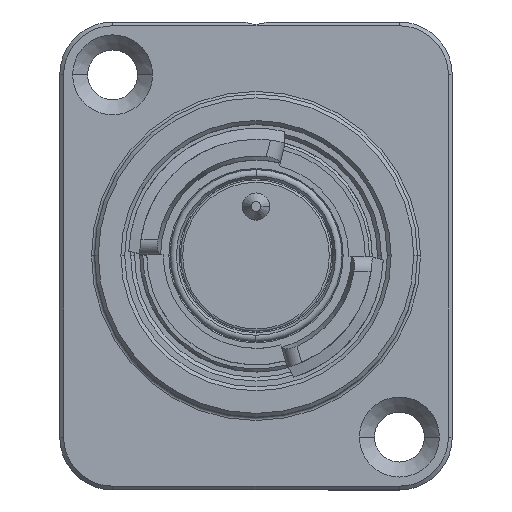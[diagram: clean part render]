
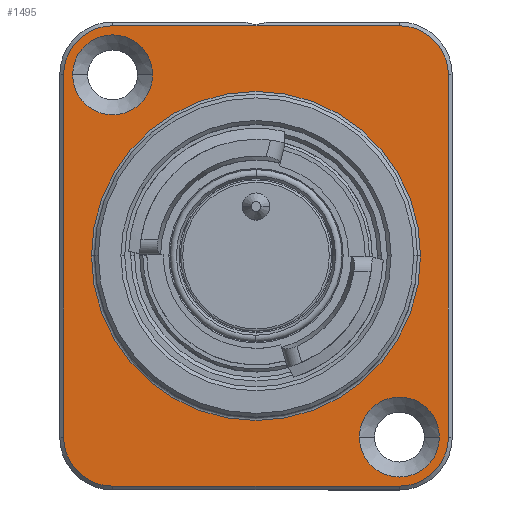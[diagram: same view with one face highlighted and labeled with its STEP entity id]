
A CAD part, top view. The second image highlights one B-rep face of the part: STEP entity #1495.
In plain terms, the highlighted planar face has unit normal (0, 0, 1).
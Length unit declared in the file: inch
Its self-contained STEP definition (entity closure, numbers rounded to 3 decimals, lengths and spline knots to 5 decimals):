
#7 = LINE ( 'NONE', #4739, #11 ) ;
#11 = VECTOR ( 'NONE', #7357, 39.37008 ) ;
#23 = CARTESIAN_POINT ( 'NONE',  ( 0.50197, -0.47244, -0.66535 ) ) ;
#116 = FACE_BOUND ( 'NONE', #6651, .T. ) ;
#205 = FACE_OUTER_BOUND ( 'NONE', #5841, .T. ) ;
#207 = ORIENTED_EDGE ( 'NONE', *, *, #2551, .T. ) ;
#385 = CARTESIAN_POINT ( 'NONE',  ( 0.37402, -0.47244, -0.66535 ) ) ;
#480 = DIRECTION ( 'NONE',  ( -1., 0., 0. ) ) ;
#559 = EDGE_CURVE ( 'NONE', #8540, #7910, #8358, .T. ) ;
#695 = CIRCLE ( 'NONE', #3121, 0.12795 ) ;
#845 = AXIS2_PLACEMENT_3D ( 'NONE', #385, #7065, #8588 ) ;
#867 = CIRCLE ( 'NONE', #7704, 0.42913 ) ;
#912 = CARTESIAN_POINT ( 'NONE',  ( 0.37402, -0.47244, -0.66535 ) ) ;
#1049 = EDGE_CURVE ( 'NONE', #2221, #6112, #1387, .T. ) ;
#1240 = CARTESIAN_POINT ( 'NONE',  ( -0.37402, 0.60039, -0.66535 ) ) ;
#1301 = VERTEX_POINT ( 'NONE', #23 ) ;
#1343 = LINE ( 'NONE', #4057, #2710 ) ;
#1387 = CIRCLE ( 'NONE', #2107, 0.10433 ) ;
#1495 = ADVANCED_FACE ( 'NONE', ( #205, #2887, #5630, #116 ), #2929, .F. ) ;
#1556 = CARTESIAN_POINT ( 'NONE',  ( -0.37402, -0.60039, -0.66535 ) ) ;
#1575 = VECTOR ( 'NONE', #7087, 39.37008 ) ;
#1661 = DIRECTION ( 'NONE',  ( -1., 0., 0. ) ) ;
#1773 = CARTESIAN_POINT ( 'NONE',  ( -0.37402, 0.47244, -0.66535 ) ) ;
#1846 = ORIENTED_EDGE ( 'NONE', *, *, #8694, .T. ) ;
#1881 = ORIENTED_EDGE ( 'NONE', *, *, #6774, .T. ) ;
#1931 = CARTESIAN_POINT ( 'NONE',  ( 0.37402, -0.60039, -0.66535 ) ) ;
#2093 = CARTESIAN_POINT ( 'NONE',  ( -0.26969, 0.47244, -0.66535 ) ) ;
#2107 = AXIS2_PLACEMENT_3D ( 'NONE', #6249, #7622, #2896 ) ;
#2125 = VERTEX_POINT ( 'NONE', #6353 ) ;
#2196 = CIRCLE ( 'NONE', #2629, 0.12795 ) ;
#2221 = VERTEX_POINT ( 'NONE', #4595 ) ;
#2330 = CARTESIAN_POINT ( 'NONE',  ( 0.42913, 0., -0.66535 ) ) ;
#2341 = ORIENTED_EDGE ( 'NONE', *, *, #2600, .T. ) ;
#2392 = DIRECTION ( 'NONE',  ( -1., 0., 0. ) ) ;
#2487 = CARTESIAN_POINT ( 'NONE',  ( 0.37402, 0.47244, -0.66535 ) ) ;
#2499 = DIRECTION ( 'NONE',  ( 0., 0., -1. ) ) ;
#2509 = CARTESIAN_POINT ( 'NONE',  ( 0.26969, -0.47244, -0.66535 ) ) ;
#2551 = EDGE_CURVE ( 'NONE', #4105, #3468, #4071, .T. ) ;
#2600 = EDGE_CURVE ( 'NONE', #4254, #4105, #695, .T. ) ;
#2629 = AXIS2_PLACEMENT_3D ( 'NONE', #2487, #7106, #3855 ) ;
#2681 = ORIENTED_EDGE ( 'NONE', *, *, #4327, .T. ) ;
#2710 = VECTOR ( 'NONE', #6770, 39.37008 ) ;
#2887 = FACE_BOUND ( 'NONE', #3400, .T. ) ;
#2896 = DIRECTION ( 'NONE',  ( -1., 0., 0. ) ) ;
#2929 = PLANE ( 'NONE',  #5374 ) ;
#3060 = DIRECTION ( 'NONE',  ( 0., 0., 1. ) ) ;
#3074 = ORIENTED_EDGE ( 'NONE', *, *, #3366, .T. ) ;
#3076 = EDGE_CURVE ( 'NONE', #7910, #8540, #3966, .T. ) ;
#3118 = VECTOR ( 'NONE', #3321, 39.37008 ) ;
#3121 = AXIS2_PLACEMENT_3D ( 'NONE', #3883, #7315, #2392 ) ;
#3122 = DIRECTION ( 'NONE',  ( -1., 0., 0. ) ) ;
#3160 = DIRECTION ( 'NONE',  ( 0., 0., -1. ) ) ;
#3205 = DIRECTION ( 'NONE',  ( -1., 0., 0. ) ) ;
#3245 = CARTESIAN_POINT ( 'NONE',  ( 0.47835, -0.47244, -0.66535 ) ) ;
#3272 = AXIS2_PLACEMENT_3D ( 'NONE', #3781, #3160, #3205 ) ;
#3301 = EDGE_CURVE ( 'NONE', #5894, #2125, #3567, .T. ) ;
#3321 = DIRECTION ( 'NONE',  ( 1., 0., 0. ) ) ;
#3366 = EDGE_CURVE ( 'NONE', #8625, #7305, #867, .T. ) ;
#3400 = EDGE_LOOP ( 'NONE', ( #2681, #3074 ) ) ;
#3468 = VERTEX_POINT ( 'NONE', #7932 ) ;
#3502 = DIRECTION ( 'NONE',  ( 0., 0., -1. ) ) ;
#3567 = CIRCLE ( 'NONE', #5135, 0.12795 ) ;
#3588 = DIRECTION ( 'NONE',  ( -1., 0., 0. ) ) ;
#3597 = CIRCLE ( 'NONE', #4894, 0.12795 ) ;
#3604 = CARTESIAN_POINT ( 'NONE',  ( 0.37402, 0.60039, -0.66535 ) ) ;
#3632 = EDGE_CURVE ( 'NONE', #4989, #5894, #7, .T. ) ;
#3693 = CIRCLE ( 'NONE', #3272, 0.42913 ) ;
#3781 = CARTESIAN_POINT ( 'NONE',  ( 0., 0., -0.66535 ) ) ;
#3855 = DIRECTION ( 'NONE',  ( -1., 0., 0. ) ) ;
#3883 = CARTESIAN_POINT ( 'NONE',  ( -0.37402, -0.47244, -0.66535 ) ) ;
#3966 = CIRCLE ( 'NONE', #845, 0.10433 ) ;
#3994 = EDGE_CURVE ( 'NONE', #1301, #4877, #1343, .T. ) ;
#4057 = CARTESIAN_POINT ( 'NONE',  ( 0.50197, 0.47244, -0.66535 ) ) ;
#4071 = LINE ( 'NONE', #1931, #3118 ) ;
#4105 = VERTEX_POINT ( 'NONE', #1556 ) ;
#4239 = DIRECTION ( 'NONE',  ( -1., 0., 0. ) ) ;
#4254 = VERTEX_POINT ( 'NONE', #4502 ) ;
#4283 = EDGE_CURVE ( 'NONE', #6112, #2221, #8114, .T. ) ;
#4327 = EDGE_CURVE ( 'NONE', #7305, #8625, #3693, .T. ) ;
#4502 = CARTESIAN_POINT ( 'NONE',  ( -0.50197, -0.47244, -0.66535 ) ) ;
#4595 = CARTESIAN_POINT ( 'NONE',  ( -0.47835, 0.47244, -0.66535 ) ) ;
#4739 = CARTESIAN_POINT ( 'NONE',  ( 0.02706, 0.60039, -0.66535 ) ) ;
#4791 = EDGE_LOOP ( 'NONE', ( #5569, #7435 ) ) ;
#4828 = DIRECTION ( 'NONE',  ( 0., 0., -1. ) ) ;
#4877 = VERTEX_POINT ( 'NONE', #6261 ) ;
#4894 = AXIS2_PLACEMENT_3D ( 'NONE', #912, #3060, #1661 ) ;
#4947 = ORIENTED_EDGE ( 'NONE', *, *, #1049, .T. ) ;
#4989 = VERTEX_POINT ( 'NONE', #3604 ) ;
#5050 = ORIENTED_EDGE ( 'NONE', *, *, #4283, .T. ) ;
#5053 = CARTESIAN_POINT ( 'NONE',  ( -0.42913, 0., -0.66535 ) ) ;
#5135 = AXIS2_PLACEMENT_3D ( 'NONE', #7648, #6875, #7560 ) ;
#5374 = AXIS2_PLACEMENT_3D ( 'NONE', #8355, #3502, #3588 ) ;
#5389 = ORIENTED_EDGE ( 'NONE', *, *, #3301, .T. ) ;
#5444 = CARTESIAN_POINT ( 'NONE',  ( 0.37402, -0.47244, -0.66535 ) ) ;
#5569 = ORIENTED_EDGE ( 'NONE', *, *, #3076, .T. ) ;
#5630 = FACE_BOUND ( 'NONE', #4791, .T. ) ;
#5823 = DIRECTION ( 'NONE',  ( 0., 0., -1. ) ) ;
#5841 = EDGE_LOOP ( 'NONE', ( #7360, #5389, #1881, #2341, #207, #6649, #8196, #1846 ) ) ;
#5894 = VERTEX_POINT ( 'NONE', #1240 ) ;
#6112 = VERTEX_POINT ( 'NONE', #2093 ) ;
#6249 = CARTESIAN_POINT ( 'NONE',  ( -0.37402, 0.47244, -0.66535 ) ) ;
#6261 = CARTESIAN_POINT ( 'NONE',  ( 0.50197, 0.47244, -0.66535 ) ) ;
#6353 = CARTESIAN_POINT ( 'NONE',  ( -0.50197, 0.47244, -0.66535 ) ) ;
#6649 = ORIENTED_EDGE ( 'NONE', *, *, #7660, .T. ) ;
#6651 = EDGE_LOOP ( 'NONE', ( #5050, #4947 ) ) ;
#6770 = DIRECTION ( 'NONE',  ( 0., 1., 0. ) ) ;
#6774 = EDGE_CURVE ( 'NONE', #2125, #4254, #8484, .T. ) ;
#6875 = DIRECTION ( 'NONE',  ( 0., 0., 1. ) ) ;
#7065 = DIRECTION ( 'NONE',  ( 0., 0., -1. ) ) ;
#7087 = DIRECTION ( 'NONE',  ( 0., -1., 0. ) ) ;
#7104 = AXIS2_PLACEMENT_3D ( 'NONE', #1773, #5823, #3122 ) ;
#7106 = DIRECTION ( 'NONE',  ( 0., 0., 1. ) ) ;
#7133 = CARTESIAN_POINT ( 'NONE',  ( -0.50197, -0.47244, -0.66535 ) ) ;
#7298 = CARTESIAN_POINT ( 'NONE',  ( 0., 0., -0.66535 ) ) ;
#7305 = VERTEX_POINT ( 'NONE', #5053 ) ;
#7315 = DIRECTION ( 'NONE',  ( 0., 0., 1. ) ) ;
#7357 = DIRECTION ( 'NONE',  ( -1., 0., 0. ) ) ;
#7360 = ORIENTED_EDGE ( 'NONE', *, *, #3632, .T. ) ;
#7435 = ORIENTED_EDGE ( 'NONE', *, *, #559, .T. ) ;
#7560 = DIRECTION ( 'NONE',  ( -1., 0., 0. ) ) ;
#7622 = DIRECTION ( 'NONE',  ( 0., 0., -1. ) ) ;
#7648 = CARTESIAN_POINT ( 'NONE',  ( -0.37402, 0.47244, -0.66535 ) ) ;
#7660 = EDGE_CURVE ( 'NONE', #3468, #1301, #3597, .T. ) ;
#7704 = AXIS2_PLACEMENT_3D ( 'NONE', #7298, #2499, #480 ) ;
#7910 = VERTEX_POINT ( 'NONE', #3245 ) ;
#7932 = CARTESIAN_POINT ( 'NONE',  ( 0.37402, -0.60039, -0.66535 ) ) ;
#8114 = CIRCLE ( 'NONE', #7104, 0.10433 ) ;
#8196 = ORIENTED_EDGE ( 'NONE', *, *, #3994, .T. ) ;
#8355 = CARTESIAN_POINT ( 'NONE',  ( 0., 0.825, -0.66535 ) ) ;
#8358 = CIRCLE ( 'NONE', #8501, 0.10433 ) ;
#8484 = LINE ( 'NONE', #7133, #1575 ) ;
#8501 = AXIS2_PLACEMENT_3D ( 'NONE', #5444, #4828, #4239 ) ;
#8540 = VERTEX_POINT ( 'NONE', #2509 ) ;
#8588 = DIRECTION ( 'NONE',  ( -1., 0., 0. ) ) ;
#8625 = VERTEX_POINT ( 'NONE', #2330 ) ;
#8694 = EDGE_CURVE ( 'NONE', #4877, #4989, #2196, .T. ) ;
